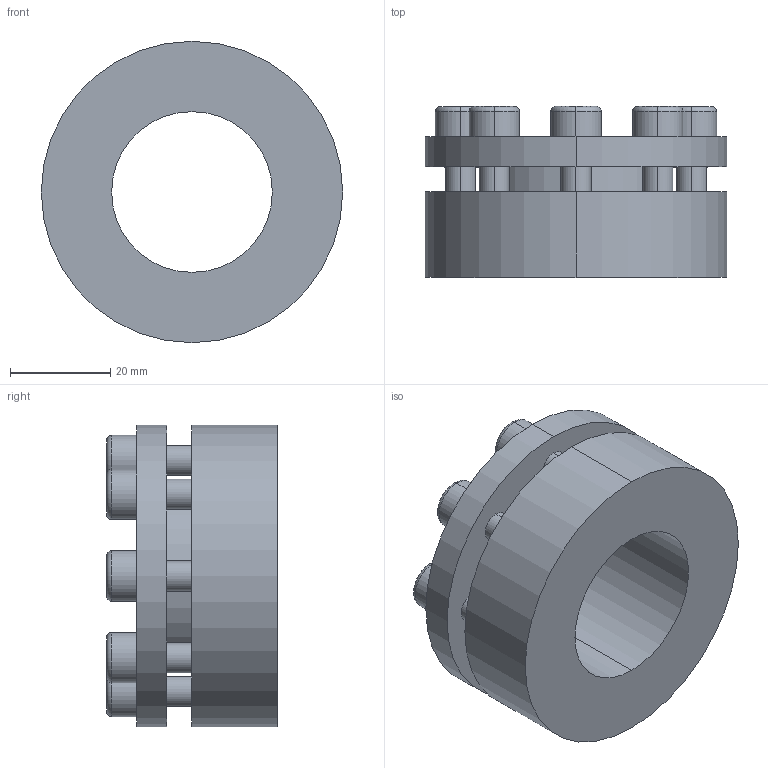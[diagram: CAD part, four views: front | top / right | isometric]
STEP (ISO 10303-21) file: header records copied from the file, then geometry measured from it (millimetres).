
FILE_DESCRIPTION (( 'STEP AP203' ), '1' );
FILE_NAME ('PL-H3 32-60.STEP', '2021-10-23T01:07:02', ( '' ), ( '' ), 'SwSTEP 2.0', 'SolidWorks 2018', '' );
FILE_SCHEMA (( 'CONFIG_CONTROL_DESIGN' ));
Length unit declared in the file: millimetre
Products named in the file (1): PL-H3 32-60
Bounding box: 60 x 34 x 60 mm (x, y, z)
Volume: 52393.6 mm3; surface area: 17335.2 mm2
Topology: 1 solids, 1 shells, 124 faces, 296 edges, 192 vertices
Faces by surface type: plane 68, cylinder 40, torus 16
Entity records: 3717 total; most frequent: DIRECTION 658, CARTESIAN_POINT 613, ORIENTED_EDGE 592, EDGE_CURVE 296, AXIS2_PLACEMENT_3D 237, VERTEX_POINT 192, VECTOR 184, LINE 184
